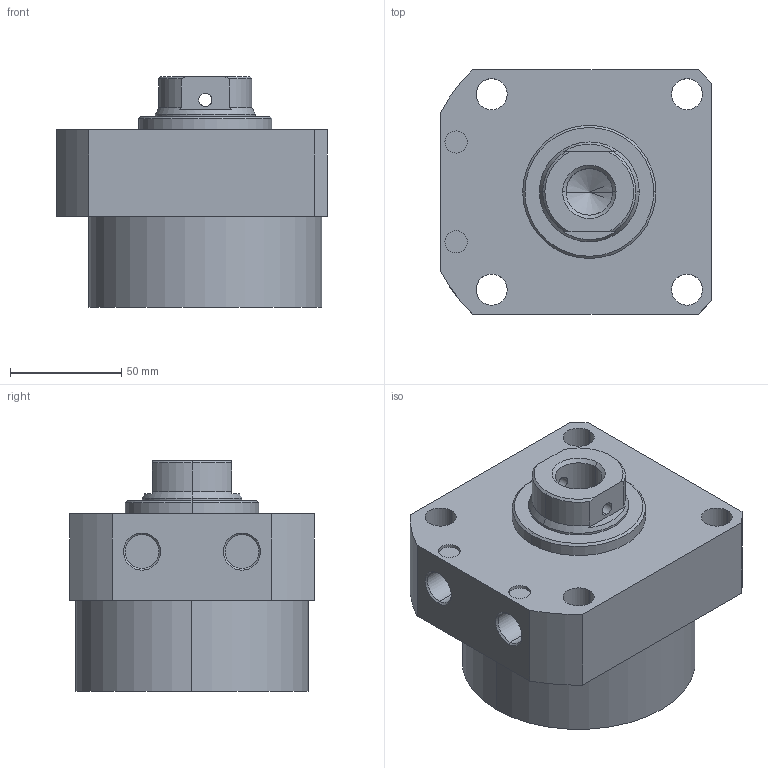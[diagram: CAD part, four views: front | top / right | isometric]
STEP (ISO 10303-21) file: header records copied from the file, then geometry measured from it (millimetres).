
FILE_DESCRIPTION (( 'STEP AP203' ), '1' );
FILE_NAME ('CLLR-105CB-020.STEP', '2019-12-19T01:39:15', ( '' ), ( '' ), 'SwSTEP 2.0', 'SolidWorks 2015', '' );
FILE_SCHEMA (( 'CONFIG_CONTROL_DESIGN' ));
Length unit declared in the file: millimetre
Products named in the file (1): CLLR-105CB-020
Bounding box: 122 x 110 x 104 mm (x, y, z)
Volume: 857097 mm3; surface area: 71479.5 mm2
Topology: 1 solids, 1 shells, 67 faces, 160 edges, 101 vertices
Faces by surface type: cylinder 33, plane 19, cone 15
Entity records: 2165 total; most frequent: CARTESIAN_POINT 471, DIRECTION 358, ORIENTED_EDGE 316, EDGE_CURVE 158, AXIS2_PLACEMENT_3D 144, VERTEX_POINT 101, EDGE_LOOP 87, CIRCLE 76
